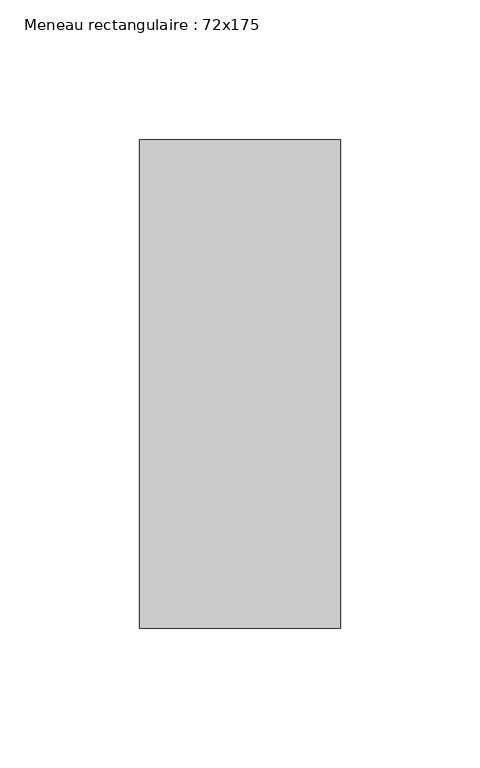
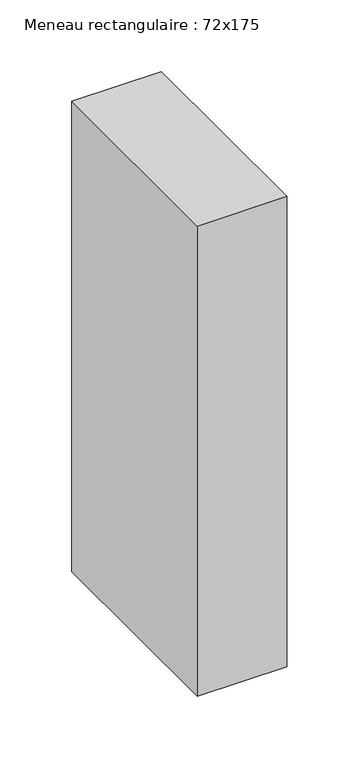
"""IFC4 building model written with IfcOpenShell, lengths in millimetres: member geometry, Meneau rectangulaire : 72x175."""

from ifc_helpers import new_model, si_unit, frame, origin, place, context, project, spatial, polyline, outline, extrude, source, transform, mapped, element, save


def meneau_rectangulaire_72x175_410e5a66(model_context):
    return source(origin(), model_context, "Body", "SweptSolid", [
        extrude(outline(polyline([(0.0, 87.5), (0.0, -87.5), (-72.0, -87.5), (-72.0, 87.5), (0.0, 87.5)])), frame((0.0, 0.0, -400.0), z_axis=(0.0, 0.0, 1.0), x_axis=(1.0, 0.0, 0.0)), (0.0, 0.0, 1.0), 400.0),
    ])


if __name__ == "__main__":
    model = new_model("IFC4")
    model_context = context("Model", 3, world=origin())
    ifc_project = project(units=[si_unit("LENGTHUNIT", "METRE", prefix="MILLI")], contexts=[model_context])
    site = spatial("IfcSite", under=ifc_project)
    building = spatial("IfcBuilding", under=site)
    placement = place(None, origin())
    meneau_rectangulaire_72x175_shape = meneau_rectangulaire_72x175_410e5a66(model_context)
    element("IfcMember", 1, ObjectType="Meneau rectangulaire : 72x175", at=placement, inside=building, context=model_context, shape_type="MappedRepresentation", body=[
        mapped(meneau_rectangulaire_72x175_shape, transform((0.0, 0.0, 0.0), x_axis=(1.0, 0.0, 0.0), y_axis=(0.0, 1.0, 0.0), z_axis=(0.0, 0.0, 1.0))),
    ])
    save(model, "model.ifc")
